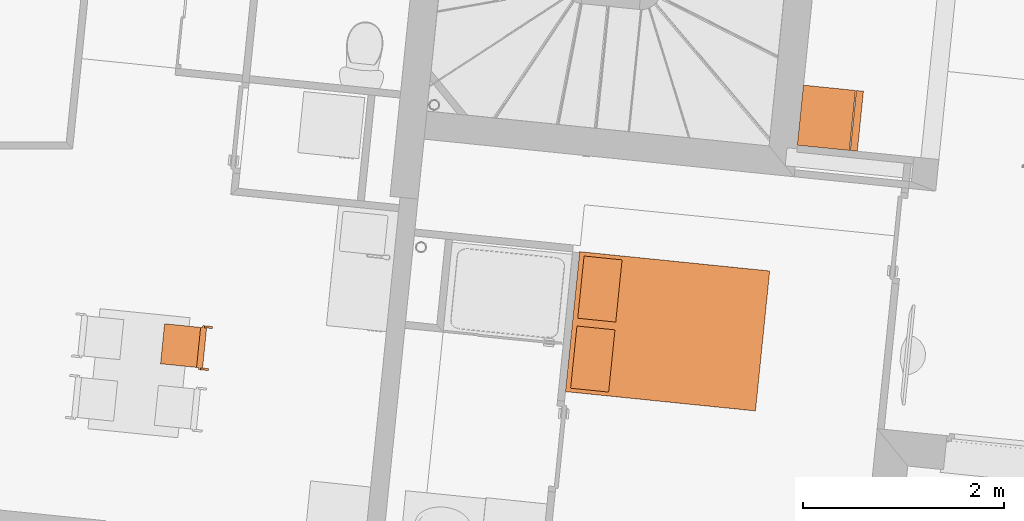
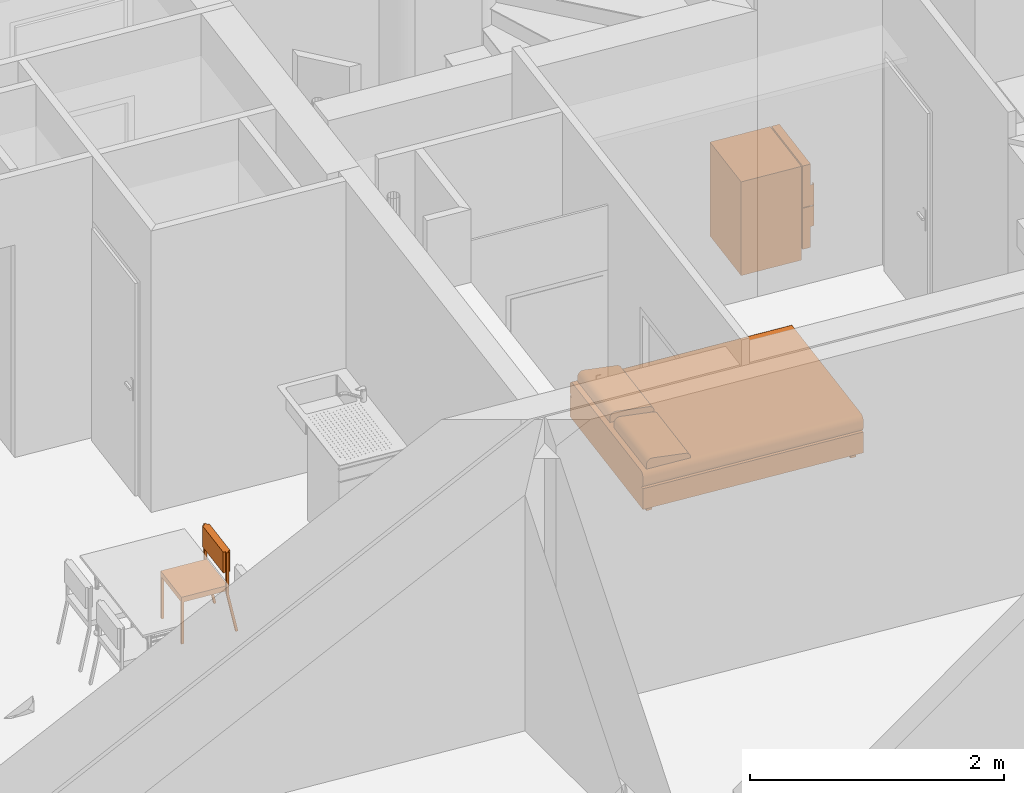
# One storey, part 160 of 171: 3 proxies.
"""IFC2X3 building model written with IfcOpenShell, lengths in millimetres."""

from ifc_helpers import new_model, entity, si_unit, converted_unit, derived_unit, money_unit, direction, frame, origin_with_axes, place, context, subcontext, project, spatial, open_shell, faceted_brep, surface_model, source, transform, mapped, type_object, element, save


model = new_model("IFC2X3")

# Units and contexts
model_context = context("Model", 3, precision=0.01, world=origin_with_axes(), true_north=direction((0.0, 1.0)))
body_context = subcontext(model_context, "Body", "Model", "MODEL_VIEW")
ifc_project = project(units=[si_unit("LENGTHUNIT", "METRE", prefix="MILLI"), si_unit("AREAUNIT", "SQUARE_METRE"), si_unit("VOLUMEUNIT", "CUBIC_METRE"), converted_unit("PLANEANGLEUNIT", "DEGREE", entity("IfcPlaneAngleMeasure", 0.0174532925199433), si_unit("PLANEANGLEUNIT", "RADIAN"), dimensions=[0, 0, 0, 0, 0, 0, 0]), money_unit("USD"), converted_unit("TIMEUNIT", "Year", entity("IfcTimeMeasure", 31557600.0), si_unit("TIMEUNIT", "SECOND"), dimensions=[0, 0, 1, 0, 0, 0, 0]), si_unit("MASSUNIT", "GRAM", prefix="KILO"), si_unit("THERMODYNAMICTEMPERATUREUNIT", "DEGREE_CELSIUS"), si_unit("LUMINOUSINTENSITYUNIT", "LUMEN"), si_unit("ENERGYUNIT", "JOULE", prefix="MEGA"), derived_unit("THERMALCONDUCTANCEUNIT", [(si_unit("POWERUNIT", "WATT"), 1), (si_unit("LENGTHUNIT", "METRE"), -1), (si_unit("THERMODYNAMICTEMPERATUREUNIT", "KELVIN"), -1)]), derived_unit("SPECIFICHEATCAPACITYUNIT", [(si_unit("ENERGYUNIT", "JOULE"), 1), (si_unit("MASSUNIT", "GRAM", prefix="KILO"), -1), (si_unit("THERMODYNAMICTEMPERATUREUNIT", "KELVIN"), -1)]), derived_unit("MASSDENSITYUNIT", [(si_unit("MASSUNIT", "GRAM", prefix="KILO"), 1), (si_unit("VOLUMEUNIT", "CUBIC_METRE"), -1)])], contexts=[model_context])

# Site, building, storey
site_placement = place(None, origin_with_axes())
site = spatial("IfcSite", under=ifc_project, at=site_placement, Name="Site", CompositionType="ELEMENT")
building_placement = place(site_placement, origin_with_axes())
building = spatial("IfcBuilding", under=site, at=building_placement, Name="Bâtiment", CompositionType="ELEMENT")
storey_placement = place(building_placement, frame((0.0, 0.0, 3000.0), z_axis=(0.0, 0.0, 1.0), x_axis=(1.0, 0.0, 0.0)))
storey = spatial("IfcBuildingStorey", under=building, at=storey_placement, Name="rdc", CompositionType="ELEMENT", Elevation=3000.0)

# Proxies
building_element_proxy_type = type_object("IfcBuildingElementProxyType", PredefinedType="NOTDEFINED")
shared_shape_1 = source(origin_with_axes(), body_context, "Body", "Brep", [
    faceted_brep([(-39.99999978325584, 0.0, 0.0), (-39.99999978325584, 19.99999936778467, 0.0), (-19.99999989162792, 19.99999936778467, 0.0), (-19.99999989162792, 0.0, 0.0), (-39.99999978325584, 0.0, 400.0), (-39.99999978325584, 19.99999936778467, 400.0), (-19.99999989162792, 19.99999936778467, 400.0), (-19.99999989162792, 0.0, 400.0)], [[[0, 1, 2, 3]], [[0, 4, 5, 1]], [[1, 5, 6, 2]], [[2, 6, 7, 3]], [[3, 7, 4, 0]], [[7, 6, 5, 4]]]),
    faceted_brep([(-419.9999977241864, 0.0, 0.0), (-419.9999977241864, 19.99999936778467, 0.0), (-399.9999978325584, 19.99999936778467, 0.0), (-399.9999978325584, 0.0, 0.0), (-419.9999977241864, 0.0, 400.0), (-419.9999977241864, 19.99999936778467, 400.0), (-399.9999978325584, 19.99999936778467, 400.0), (-399.9999978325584, 0.0, 400.0)], [[[0, 1, 2, 3]], [[0, 4, 5, 1]], [[1, 5, 6, 2]], [[2, 6, 7, 3]], [[3, 7, 4, 0]], [[7, 6, 5, 4]]]),
    faceted_brep([(-399.9999978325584, 0.0, 400.0000000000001), (-399.9999978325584, 19.99999936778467, 400.0000000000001), (-39.99999978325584, 19.99999936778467, 400.0000000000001), (-39.99999978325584, 0.0, 400.0000000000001), (-399.9999978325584, 0.0, 420.0000000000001), (-399.9999978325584, 19.99999936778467, 420.0000000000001), (-39.99999978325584, 19.99999936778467, 420.0000000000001), (-39.99999978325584, 0.0, 420.0000000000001)], [[[0, 1, 2, 3]], [[0, 4, 5, 1]], [[1, 5, 6, 2]], [[2, 6, 7, 3]], [[3, 7, 4, 0]], [[7, 6, 5, 4]]]),
    faceted_brep([(-39.99999978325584, 19.99999936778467, 400.0000000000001), (-39.99999978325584, 379.9999879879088, 400.0000000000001), (-19.99999989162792, 379.9999879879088, 400.0000000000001), (-19.99999989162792, 19.99999936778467, 400.0000000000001), (-39.99999978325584, 19.99999936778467, 420.0000000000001), (-39.99999978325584, 379.9999879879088, 420.0000000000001), (-19.99999989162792, 379.9999879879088, 420.0000000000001), (-19.99999989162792, 19.99999936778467, 420.0000000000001)], [[[0, 1, 2, 3]], [[0, 4, 5, 1]], [[1, 5, 6, 2]], [[2, 6, 7, 3]], [[3, 7, 4, 0]], [[7, 6, 5, 4]]]),
    faceted_brep([(-419.9999977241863, 379.9999879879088, 400.0000000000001), (-419.9999977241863, 399.9999873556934, 400.0000000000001), (-19.99999989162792, 399.9999873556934, 400.0000000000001), (-19.99999989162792, 379.9999879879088, 400.0000000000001), (-419.9999977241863, 379.9999879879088, 420.0000000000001), (-419.9999977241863, 399.9999873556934, 420.0000000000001), (-19.99999989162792, 399.9999873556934, 420.0000000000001), (-19.99999989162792, 379.9999879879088, 420.0000000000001)], [[[0, 1, 2, 3]], [[0, 4, 5, 1]], [[1, 5, 6, 2]], [[2, 6, 7, 3]], [[3, 7, 4, 0]], [[7, 6, 5, 4]]]),
    faceted_brep([(-419.9999977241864, 19.99999936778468, 400.0000000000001), (-419.9999977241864, 379.9999879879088, 400.0000000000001), (-399.9999978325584, 379.9999879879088, 400.0000000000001), (-399.9999978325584, 19.99999936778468, 400.0000000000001), (-419.9999977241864, 19.99999936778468, 420.0000000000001), (-419.9999977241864, 379.9999879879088, 420.0000000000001), (-399.9999978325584, 379.9999879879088, 420.0000000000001), (-399.9999978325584, 19.99999936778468, 420.0000000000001)], [[[0, 1, 2, 3]], [[0, 4, 5, 1]], [[1, 5, 6, 2]], [[2, 6, 7, 3]], [[3, 7, 4, 0]], [[7, 6, 5, 4]]]),
    faceted_brep([(-419.9999977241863, 0.0, 400.0), (-419.9999977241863, 399.9999873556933, 400.0), (-19.99999989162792, 399.9999873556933, 400.0), (-19.99999989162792, 0.0, 400.0), (-419.9999977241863, 0.0, 450.0), (-419.9999977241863, 399.9999873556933, 450.0), (-19.99999989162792, 399.9999873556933, 450.0), (-19.99999989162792, 0.0, 450.0)], [[[0, 1, 2, 3]], [[0, 4, 5, 1]], [[1, 5, 6, 2]], [[2, 6, 7, 3]], [[3, 7, 4, 0]], [[7, 6, 5, 4]]]),
    faceted_brep([(-19.99999989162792, 379.9999879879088, 380.0), (-19.99999989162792, 399.9999873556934, 380.0), (0.0, 399.9999873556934, 380.0), (0.0, 379.9999879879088, 380.0), (-19.99999989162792, 379.9999879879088, 780.0), (-19.99999989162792, 399.9999873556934, 780.0), (0.0, 399.9999873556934, 780.0), (0.0, 379.9999879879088, 780.0)], [[[0, 1, 2, 3]], [[0, 4, 5, 1]], [[1, 5, 6, 2]], [[2, 6, 7, 3]], [[3, 7, 4, 0]], [[7, 6, 5, 4]]]),
    faceted_brep([(-439.9999976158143, 379.9999879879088, 380.0), (-439.9999976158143, 399.9999873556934, 380.0), (-419.9999977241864, 399.9999873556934, 380.0), (-419.9999977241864, 379.9999879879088, 380.0), (-439.9999976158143, 379.9999879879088, 780.0), (-439.9999976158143, 399.9999873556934, 780.0), (-419.9999977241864, 399.9999873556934, 780.0), (-419.9999977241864, 379.9999879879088, 780.0)], [[[0, 1, 2, 3]], [[0, 4, 5, 1]], [[1, 5, 6, 2]], [[2, 6, 7, 3]], [[3, 7, 4, 0]], [[7, 6, 5, 4]]]),
    faceted_brep([(-419.9999977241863, 359.999988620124, 580.0000000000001), (-419.9999977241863, 419.9999867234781, 580.0000000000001), (-19.99999989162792, 419.9999867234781, 580.0000000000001), (-19.99999989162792, 359.999988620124, 580.0000000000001), (-419.9999977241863, 359.999988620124, 780.0), (-419.9999977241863, 419.9999867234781, 780.0), (-19.99999989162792, 419.9999867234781, 780.0), (-19.99999989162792, 359.999988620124, 780.0)], [[[0, 1, 2, 3]], [[0, 4, 5, 1]], [[1, 5, 6, 2]], [[2, 6, 7, 3]], [[3, 7, 4, 0]], [[7, 6, 5, 4]]]),
    faceted_brep([(-19.99999989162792, 459.9999854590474, 0.0), (-19.99999989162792, 479.5709559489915, 4.120326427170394), (0.0, 479.5709559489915, 4.120326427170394), (0.0, 459.9999854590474, 0.0), (-19.99999989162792, 379.997669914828, 379.999760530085), (-19.99999989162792, 399.5686404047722, 384.1200869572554), (0.0, 399.5686404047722, 384.1200869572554), (0.0, 379.997669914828, 379.999760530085)], [[[0, 1, 2, 3]], [[0, 4, 5, 1]], [[1, 5, 6, 2]], [[2, 6, 7, 3]], [[3, 7, 4, 0]], [[7, 6, 5, 4]]]),
    faceted_brep([(-439.9999976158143, 459.9999854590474, 0.0), (-439.9999976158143, 479.5709559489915, 4.120326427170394), (-419.9999977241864, 479.5709559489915, 4.120326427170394), (-419.9999977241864, 459.9999854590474, 0.0), (-439.9999976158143, 379.997669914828, 379.999760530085), (-439.9999976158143, 399.5686404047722, 384.1200869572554), (-419.9999977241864, 399.5686404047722, 384.1200869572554), (-419.9999977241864, 379.997669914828, 379.999760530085)], [[[0, 1, 2, 3]], [[0, 4, 5, 1]], [[1, 5, 6, 2]], [[2, 6, 7, 3]], [[3, 7, 4, 0]], [[7, 6, 5, 4]]]),
])
proxy_1_placement = place(storey_placement, frame((2222384.439889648, -619395.0503724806, 0.0), z_axis=(0.0, 0.0, 1.0), x_axis=(-0.1000048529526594, -0.9949869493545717, 0.0)))
element("IfcBuildingElementProxy", 1, at=proxy_1_placement, inside=storey, type_object=building_element_proxy_type, Name="Obj.-027", context=body_context, shape_type="MappedRepresentation", body=[
    mapped(shared_shape_1, transform((0.0, 0.0, 0.0))),
])
shared_shape_2 = source(origin_with_axes(), body_context, "Body", "SurfaceModel", [
    faceted_brep([(0.0, 80.0, 100.0), (0.0, 80.0, 900.0), (-600.0, 80.0, 900.0), (-600.0, 80.0, 100.0), (0.0, 600.0, 100.0), (0.0, 600.0, 900.0), (-600.0, 600.0, 900.0), (-600.0, 600.0, 100.0)], [[[0, 1, 2, 3]], [[4, 5, 1, 0]], [[1, 5, 6, 2]], [[3, 2, 6, 7]], [[0, 3, 7, 4]], [[7, 6, 5, 4]]]),
    faceted_brep([(0.0, 80.0, 0.0), (0.0, 80.0, 100.0), (-600.0, 80.0, 100.0), (-600.0, 80.0, 0.0), (0.0, 600.0, 0.0), (0.0, 600.0, 100.0), (-600.0, 600.0, 100.0), (-600.0, 600.0, 0.0)], [[[0, 1, 2, 3]], [[4, 5, 1, 0]], [[1, 5, 6, 2]], [[3, 2, 6, 7]], [[0, 3, 7, 4]], [[7, 6, 5, 4]]]),
    faceted_brep([(0.0, 70.0, 100.0), (0.0, 0.0, 100.0), (-600.0, 0.0, 100.0), (-600.0, 70.0, 100.0), (0.0, 70.00000000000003, 494.0), (0.0, 0.0, 494.0), (-600.0, 0.0, 494.0), (-600.0, 70.00000000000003, 494.0)], [[[0, 1, 2, 3]], [[4, 5, 1, 0]], [[1, 5, 6, 2]], [[3, 2, 6, 7]], [[0, 3, 7, 4]], [[7, 6, 5, 4]]]),
    faceted_brep([(0.0, 70.0, 500.0), (0.0, 0.0, 500.0), (-600.0, 0.0, 500.0), (-600.0, 70.0, 500.0), (0.0, 70.00000000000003, 900.0), (0.0, 0.0, 900.0), (-600.0, 0.0, 900.0), (-600.0, 70.00000000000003, 900.0)], [[[0, 1, 2, 3]], [[4, 5, 1, 0]], [[1, 5, 6, 2]], [[3, 2, 6, 7]], [[0, 3, 7, 4]], [[7, 6, 5, 4]]]),
    surface_model("IfcShellBasedSurfaceModel", [(-600.0, -30.0, 300.0000000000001), (-600.0, 0.0, 300.0000000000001), (-600.0, 0.0, 494.0000000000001), (-600.0, -30.0, 494.0000000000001)], [open_shell([[[0, 1, 2, 3]]])]),
    surface_model("IfcShellBasedSurfaceModel", [(-600.0, -30.0, 300.0000000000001), (-570.0, -30.0, 300.0000000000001), (-570.0, -30.0, 494.0000000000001), (-600.0, -30.0, 494.0000000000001)], [open_shell([[[0, 1, 2, 3]]])]),
    surface_model("IfcShellBasedSurfaceModel", [(-600.0, -30.0, 500.0), (-600.0, 0.0, 500.0), (-600.0, 0.0, 700.0), (-600.0, -30.0, 700.0)], [open_shell([[[0, 1, 2, 3]]])]),
    surface_model("IfcShellBasedSurfaceModel", [(-600.0, -30.0, 500.0), (-570.0, -30.0, 500.0), (-570.0, -30.0, 700.0), (-600.0, -30.0, 700.0)], [open_shell([[[0, 1, 2, 3]]])]),
])
proxy_2_placement = place(storey_placement, frame((2229379.346212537, -616663.7993337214, 0.0), z_axis=(0.0, 0.0, 1.0), x_axis=(0.1011288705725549, 0.9948733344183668, 0.0)))
element("IfcBuildingElementProxy", 2, at=proxy_2_placement, inside=storey, type_object=building_element_proxy_type, Name="Obj.-019", context=body_context, shape_type="MappedRepresentation", body=[
    mapped(shared_shape_2, transform((0.0, 0.0, 0.0))),
])
shared_shape_3 = source(origin_with_axes(), body_context, "Body", "SurfaceModel", [
    faceted_brep([(622.2222222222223, -95.0, 0.0), (622.2222222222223, -47.5, 0.0), (661.1111111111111, -47.5, 0.0), (661.1111111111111, -95.0, 0.0), (622.2222222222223, -95.0, 50.0), (622.2222222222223, -47.5, 50.0), (661.1111111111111, -47.5, 50.0), (661.1111111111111, -95.0, 50.0)], [[[0, 1, 2, 3]], [[0, 4, 5, 1]], [[1, 5, 6, 2]], [[2, 6, 7, 3]], [[3, 7, 4, 0]], [[7, 6, 5, 4]]]),
    faceted_brep([(622.2222222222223, -1852.5, 0.0), (622.2222222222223, -1805.0, 0.0), (661.1111111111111, -1805.0, 0.0), (661.1111111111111, -1852.5, 0.0), (622.2222222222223, -1852.5, 50.0), (622.2222222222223, -1805.0, 50.0), (661.1111111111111, -1805.0, 50.0), (661.1111111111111, -1852.5, 50.0)], [[[0, 1, 2, 3]], [[0, 4, 5, 1]], [[1, 5, 6, 2]], [[2, 6, 7, 3]], [[3, 7, 4, 0]], [[7, 6, 5, 4]]]),
    faceted_brep([(-661.111111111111, -1852.5, 0.0), (-661.111111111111, -1805.0, 0.0), (-622.2222222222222, -1805.0, 0.0), (-622.2222222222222, -1852.5, 0.0), (-661.111111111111, -1852.5, 50.0), (-661.111111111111, -1805.0, 50.0), (-622.2222222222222, -1805.0, 50.0), (-622.2222222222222, -1852.5, 50.0)], [[[0, 1, 2, 3]], [[0, 4, 5, 1]], [[1, 5, 6, 2]], [[2, 6, 7, 3]], [[3, 7, 4, 0]], [[7, 6, 5, 4]]]),
    faceted_brep([(-661.111111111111, -94.99999999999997, 0.0), (-661.111111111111, -47.49999999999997, 0.0), (-622.2222222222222, -47.49999999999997, 0.0), (-622.2222222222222, -94.99999999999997, 0.0), (-661.111111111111, -94.99999999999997, 50.0), (-661.111111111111, -47.49999999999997, 50.0), (-622.2222222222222, -47.49999999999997, 50.0), (-622.2222222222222, -94.99999999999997, 50.0)], [[[0, 1, 2, 3]], [[0, 4, 5, 1]], [[1, 5, 6, 2]], [[2, 6, 7, 3]], [[3, 7, 4, 0]], [[7, 6, 5, 4]]]),
    faceted_brep([(700.0, 0.0, 50.0), (700.0, -1900.0, 50.00000000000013), (-700.0, -1900.0, 50.00000000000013), (-700.0, 0.0, 50.0), (700.0, 0.0, 250.0), (700.0, -1900.0, 250.0000000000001), (-700.0, -1900.0, 250.0000000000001), (-700.0, 0.0, 250.0)], [[[0, 1, 2, 3]], [[4, 5, 1, 0]], [[1, 5, 6, 2]], [[3, 2, 6, 7]], [[0, 3, 7, 4]], [[7, 6, 5, 4]]]),
    surface_model("IfcShellBasedSurfaceModel", [(-661.1111111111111, 0.0, 250.0), (-661.1111111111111, -1900.0, 250.0000000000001), (-667.8640957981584, -1900.0, 250.7596123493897), (-667.8640957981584, 0.0, 250.7596123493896), (661.1111111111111, -1900.0, 250.0000000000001), (667.8640957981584, -1900.0, 250.7596123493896), (674.4118944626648, -1900.0, 253.0153689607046), (680.5555555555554, -1900.0, 256.6987298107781), (686.1084070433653, -1900.0, 261.6977778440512), (690.9017283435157, -1900.0, 267.8606195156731), (694.7898768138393, -1900.0, 275.0000000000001), (697.654713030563, -1900.0, 282.8989928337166), (699.4091903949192, -1900.0, 291.3175911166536), (700.0, -1900.0, 300.0000000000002), (700.0000000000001, -1900.0, 350.0000000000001), (699.4091903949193, -1900.0, 358.6824088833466), (697.654713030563, -1900.0, 367.1010071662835), (694.7898768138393, -1900.0, 375.0000000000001), (690.9017283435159, -1900.0, 382.1393804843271), (686.1084070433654, -1900.0, 388.302222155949), (680.5555555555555, -1900.0, 393.3012701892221), (674.4118944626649, -1900.0, 396.9846310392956), (667.8640957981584, -1900.0, 399.2403876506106), (661.1111111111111, -1900.0, 400.0000000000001), (-661.111111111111, -1900.0, 400.0000000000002), (-667.8640957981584, -1900.0, 399.2403876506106), (-674.4118944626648, -1900.0, 396.9846310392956), (-680.5555555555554, -1900.0, 393.3012701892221), (-686.1084070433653, -1900.0, 388.302222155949), (-690.9017283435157, -1900.0, 382.1393804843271), (-694.7898768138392, -1900.0, 375.0000000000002), (-697.654713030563, -1900.0, 367.1010071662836), (-699.4091903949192, -1900.0, 358.6824088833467), (-700.0, -1900.0, 350.0000000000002), (-700.0, -1900.0, 300.0000000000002), (-699.4091903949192, -1900.0, 291.3175911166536), (-697.654713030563, -1900.0, 282.8989928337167), (-694.7898768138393, -1900.0, 275.0000000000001), (-690.9017283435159, -1900.0, 267.8606195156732), (-686.1084070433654, -1900.0, 261.6977778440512), (-680.5555555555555, -1900.0, 256.6987298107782), (-674.4118944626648, -1900.0, 253.0153689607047), (-674.4118944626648, 0.0, 253.0153689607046), (661.1111111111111, 0.0, 250.0), (-680.5555555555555, 0.0, 256.698729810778), (-686.1084070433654, 0.0, 261.6977778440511), (-690.9017283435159, 0.0, 267.8606195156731), (-694.7898768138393, 0.0, 275.0), (-697.654713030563, 0.0, 282.8989928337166), (-699.4091903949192, 0.0, 291.3175911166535), (-700.0, 0.0, 300.0000000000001), (-700.0, 0.0, 350.0000000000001), (-699.4091903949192, 0.0, 358.6824088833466), (-697.654713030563, 0.0, 367.1010071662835), (-694.7898768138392, 0.0, 375.0000000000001), (-690.9017283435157, 0.0, 382.139380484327), (-686.1084070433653, 0.0, 388.3022221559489), (-680.5555555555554, 0.0, 393.301270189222), (-674.4118944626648, 0.0, 396.9846310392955), (-667.8640957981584, 0.0, 399.2403876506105), (-661.111111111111, 0.0, 400.0000000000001), (661.1111111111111, 0.0, 400.0), (667.8640957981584, 0.0, 399.2403876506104), (674.4118944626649, 0.0, 396.9846310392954), (680.5555555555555, 0.0, 393.301270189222), (686.1084070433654, 0.0, 388.3022221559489), (690.9017283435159, 0.0, 382.139380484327), (694.7898768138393, 0.0, 375.0), (697.654713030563, 0.0, 367.1010071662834), (699.4091903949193, 0.0, 358.6824088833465), (700.0000000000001, 0.0, 350.0), (700.0, 0.0, 300.0000000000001), (699.4091903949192, 0.0, 291.3175911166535), (697.654713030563, 0.0, 282.8989928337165), (694.7898768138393, 0.0, 275.0), (690.9017283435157, 0.0, 267.860619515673), (686.1084070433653, 0.0, 261.6977778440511), (680.5555555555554, 0.0, 256.698729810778), (674.4118944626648, 0.0, 253.0153689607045), (667.8640957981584, 0.0, 250.7596123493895)], [open_shell([[[0, 1, 2, 3]], [[4, 5, 6, 7, 8, 9, 10, 11, 12, 13, 14, 15, 16, 17, 18, 19, 20, 21, 22, 23, 24, 25, 26, 27, 28, 29, 30, 31, 32, 33, 34, 35, 36, 37, 38, 39, 40, 41, 2, 1]], [[3, 2, 41, 42]], [[43, 0, 3, 42, 44, 45, 46, 47, 48, 49, 50, 51, 52, 53, 54, 55, 56, 57, 58, 59, 60, 61, 62, 63, 64, 65, 66, 67, 68, 69, 70, 71, 72, 73, 74, 75, 76, 77, 78, 79]], [[79, 5, 4, 43]], [[78, 6, 5, 79]], [[77, 7, 6, 78]], [[76, 8, 7, 77]], [[75, 9, 8, 76]], [[74, 10, 9, 75]], [[73, 11, 10, 74]], [[72, 12, 11, 73]], [[71, 13, 12, 72]], [[70, 14, 13, 71]], [[69, 15, 14, 70]], [[68, 16, 15, 69]], [[67, 17, 16, 68]], [[66, 18, 17, 67]], [[65, 19, 18, 66]], [[64, 20, 19, 65]], [[63, 21, 20, 64]], [[62, 22, 21, 63]], [[61, 23, 22, 62]], [[60, 24, 23, 61]], [[59, 25, 24, 60]], [[58, 26, 25, 59]], [[57, 27, 26, 58]], [[56, 28, 27, 57]], [[55, 29, 28, 56]], [[54, 30, 29, 55]], [[53, 31, 30, 54]], [[52, 32, 31, 53]], [[51, 33, 32, 52]], [[50, 34, 33, 51]], [[49, 35, 34, 50]], [[48, 36, 35, 49]], [[47, 37, 36, 48]], [[46, 38, 37, 47]], [[45, 39, 38, 46]], [[44, 40, 39, 45]], [[42, 41, 40, 44]]])]),
    faceted_brep([(-38.88888888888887, -47.49999999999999, 400.0), (-661.1111111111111, -47.50000000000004, 400.0000000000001), (-661.1111111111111, -47.50000000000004, 443.4000000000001), (-38.88888888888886, -47.49999999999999, 443.4), (-38.88888888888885, -427.5, 400.0), (-661.1111111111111, -427.5, 400.0000000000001), (-661.1111111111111, -427.6960812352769, 408.6954428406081), (-661.1111111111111, -426.4675711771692, 417.2966661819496), (-661.1111111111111, -423.8511300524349, 425.5469991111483), (-661.1111111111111, -419.924835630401, 433.2002417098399), (-661.1111111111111, -414.8058532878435, 440.0280119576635), (-661.1111111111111, -408.6469396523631, 445.826560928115), (-661.1111111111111, -401.6318841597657, 450.4228529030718), (-661.1111111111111, -393.9700245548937, 453.6797289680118), (-661.1111111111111, -385.89, 455.5000000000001), (-661.1111111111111, -100.8900000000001, 493.0000000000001), (-661.1111111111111, -92.85488048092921, 493.3370808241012), (-661.1111111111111, -84.88093291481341, 492.2422169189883), (-661.1111111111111, -77.19681007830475, 489.7468034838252), (-661.1111111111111, -70.02285403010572, 485.922396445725), (-661.1111111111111, -63.56477780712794, 480.878660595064), (-661.1111111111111, -58.00776660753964, 474.7602249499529), (-661.1111111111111, -53.51116760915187, 467.7425355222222), (-661.1111111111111, -50.20392069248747, 460.0268244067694), (-661.1111111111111, -48.18086109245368, 451.8343394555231), (-38.88888888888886, -48.18086109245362, 451.834339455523), (-38.88888888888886, -50.20392069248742, 460.0268244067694), (-38.88888888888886, -53.51116760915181, 467.7425355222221), (-38.88888888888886, -58.00776660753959, 474.7602249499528), (-38.88888888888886, -63.56477780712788, 480.878660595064), (-38.88888888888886, -70.02285403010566, 485.922396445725), (-38.88888888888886, -77.19681007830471, 489.7468034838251), (-38.88888888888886, -84.88093291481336, 492.2422169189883), (-38.88888888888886, -92.85488048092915, 493.3370808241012), (-38.88888888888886, -100.89, 493.0000000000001), (-38.88888888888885, -385.89, 455.5), (-38.88888888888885, -393.9700245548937, 453.6797289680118), (-38.88888888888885, -401.6318841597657, 450.4228529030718), (-38.88888888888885, -408.6469396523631, 445.826560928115), (-38.88888888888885, -414.8058532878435, 440.0280119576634), (-38.88888888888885, -419.9248356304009, 433.2002417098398), (-38.88888888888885, -423.8511300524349, 425.5469991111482), (-38.88888888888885, -426.4675711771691, 417.2966661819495), (-38.88888888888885, -427.6960812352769, 408.695442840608)], [[[0, 1, 2, 3]], [[4, 5, 1, 0]], [[1, 5, 6, 7, 8, 9, 10, 11, 12, 13, 14, 15, 16, 17, 18, 19, 20, 21, 22, 23, 24, 2]], [[3, 2, 24, 25]], [[0, 3, 25, 26, 27, 28, 29, 30, 31, 32, 33, 34, 35, 36, 37, 38, 39, 40, 41, 42, 43, 4]], [[43, 6, 5, 4]], [[42, 7, 6, 43]], [[41, 8, 7, 42]], [[40, 9, 8, 41]], [[39, 10, 9, 40]], [[38, 11, 10, 39]], [[37, 12, 11, 38]], [[36, 13, 12, 37]], [[35, 14, 13, 36]], [[34, 15, 14, 35]], [[33, 16, 15, 34]], [[32, 17, 16, 33]], [[31, 18, 17, 32]], [[30, 19, 18, 31]], [[29, 20, 19, 30]], [[28, 21, 20, 29]], [[27, 22, 21, 28]], [[26, 23, 22, 27]], [[25, 24, 23, 26]]]),
    faceted_brep([(661.1111111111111, -47.49999999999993, 399.9999999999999), (38.88888888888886, -47.49999999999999, 400.0), (38.88888888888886, -47.49999999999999, 443.4), (661.1111111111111, -47.49999999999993, 443.4), (661.1111111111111, -427.4999999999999, 399.9999999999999), (38.88888888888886, -427.4999999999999, 400.0), (38.88888888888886, -427.6960812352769, 408.695442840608), (38.88888888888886, -426.4675711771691, 417.2966661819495), (38.88888888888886, -423.8511300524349, 425.5469991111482), (38.88888888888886, -419.9248356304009, 433.2002417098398), (38.88888888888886, -414.8058532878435, 440.0280119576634), (38.88888888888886, -408.6469396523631, 445.826560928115), (38.88888888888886, -401.6318841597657, 450.4228529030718), (38.88888888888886, -393.9700245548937, 453.6797289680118), (38.88888888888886, -385.8899999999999, 455.5), (38.88888888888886, -100.89, 493.0000000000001), (38.88888888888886, -92.85488048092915, 493.3370808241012), (38.88888888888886, -84.88093291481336, 492.2422169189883), (38.88888888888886, -77.19681007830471, 489.7468034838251), (38.88888888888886, -70.02285403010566, 485.922396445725), (38.88888888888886, -63.56477780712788, 480.878660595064), (38.88888888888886, -58.00776660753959, 474.7602249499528), (38.88888888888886, -53.51116760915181, 467.7425355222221), (38.88888888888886, -50.20392069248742, 460.0268244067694), (38.88888888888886, -48.18086109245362, 451.834339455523), (661.1111111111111, -48.18086109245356, 451.834339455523), (661.1111111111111, -50.20392069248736, 460.0268244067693), (661.1111111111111, -53.51116760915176, 467.7425355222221), (661.1111111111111, -58.00776660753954, 474.7602249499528), (661.1111111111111, -63.56477780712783, 480.8786605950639), (661.1111111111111, -70.0228540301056, 485.9223964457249), (661.1111111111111, -77.19681007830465, 489.7468034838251), (661.1111111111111, -84.8809329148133, 492.2422169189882), (661.1111111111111, -92.8548804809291, 493.3370808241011), (661.1111111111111, -100.89, 493.0), (661.1111111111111, -385.8899999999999, 455.4999999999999), (661.1111111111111, -393.9700245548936, 453.6797289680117), (661.1111111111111, -401.6318841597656, 450.4228529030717), (661.1111111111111, -408.646939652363, 445.8265609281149), (661.1111111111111, -414.8058532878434, 440.0280119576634), (661.1111111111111, -419.9248356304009, 433.2002417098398), (661.1111111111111, -423.8511300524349, 425.5469991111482), (661.1111111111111, -426.4675711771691, 417.2966661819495), (661.1111111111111, -427.6960812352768, 408.6954428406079)], [[[0, 1, 2, 3]], [[4, 5, 1, 0]], [[1, 5, 6, 7, 8, 9, 10, 11, 12, 13, 14, 15, 16, 17, 18, 19, 20, 21, 22, 23, 24, 2]], [[3, 2, 24, 25]], [[0, 3, 25, 26, 27, 28, 29, 30, 31, 32, 33, 34, 35, 36, 37, 38, 39, 40, 41, 42, 43, 4]], [[43, 6, 5, 4]], [[42, 7, 6, 43]], [[41, 8, 7, 42]], [[40, 9, 8, 41]], [[39, 10, 9, 40]], [[38, 11, 10, 39]], [[37, 12, 11, 38]], [[36, 13, 12, 37]], [[35, 14, 13, 36]], [[34, 15, 14, 35]], [[33, 16, 15, 34]], [[32, 17, 16, 33]], [[31, 18, 17, 32]], [[30, 19, 18, 31]], [[29, 20, 19, 30]], [[28, 21, 20, 29]], [[27, 22, 21, 28]], [[26, 23, 22, 27]], [[25, 24, 23, 26]]]),
])
proxy_3_placement = place(storey_placement, frame((2226485.623363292, -618955.9595367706, 0.0), z_axis=(0.0, 0.0, 1.0), x_axis=(0.1011033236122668, 0.9948759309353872, 0.0)))
element("IfcBuildingElementProxy", 3, at=proxy_3_placement, inside=storey, type_object=building_element_proxy_type, Name="Obj.-003", context=body_context, shape_type="MappedRepresentation", body=[
    mapped(shared_shape_3, transform((0.0, 0.0, 0.0))),
])

save(model, "model.ifc")
